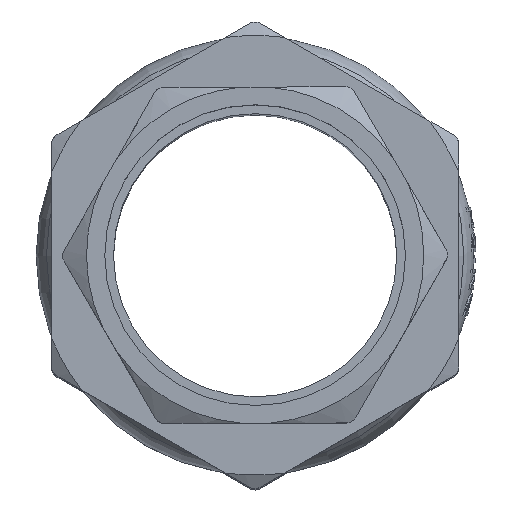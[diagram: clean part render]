
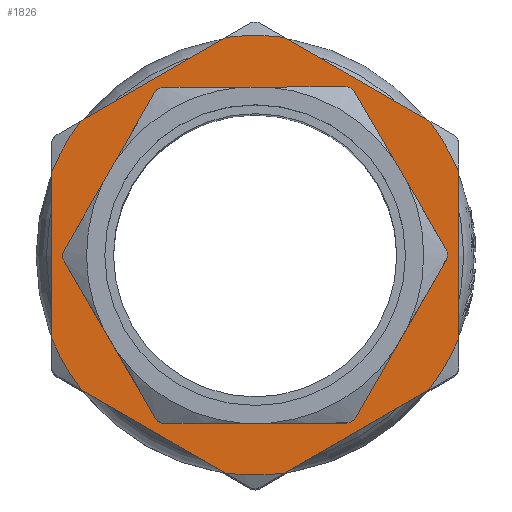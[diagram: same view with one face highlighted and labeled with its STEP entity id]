
A CAD part, top view. The second image highlights one B-rep face of the part: STEP entity #1826.
In plain terms, the highlighted planar face has unit normal (0, 0, 1).
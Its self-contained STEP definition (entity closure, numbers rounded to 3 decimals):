
#1826=ADVANCED_FACE('',(#4620,#4622),#4624,.T.);
#4620=FACE_BOUND('',#4621,.T.);
#4621=EDGE_LOOP('',(#5816,#5817,#5818,#5819,#5820,#5821,#5822,#5823,#5824,#5825,
#5826,#5827));
#4622=FACE_BOUND('',#4623,.T.);
#4623=EDGE_LOOP('',(#5828,#5829,#5830,#5831,#5832,#5833,#5834,#5835,#5836,#5837,
#5838,#5839));
#4624=PLANE('',#4625);
#4625=AXIS2_PLACEMENT_3D('',#4626,#4627,#4628);
#4626=CARTESIAN_POINT('',(0.,47.463,115.5));
#4627=DIRECTION('',(0.,0.,1.));
#4628=DIRECTION('',(1.,0.,0.));
#5816=ORIENTED_EDGE('',*,*,#6451,.T.);
#5817=ORIENTED_EDGE('',*,*,#6434,.T.);
#5818=ORIENTED_EDGE('',*,*,#6440,.T.);
#5819=ORIENTED_EDGE('',*,*,#6422,.T.);
#5820=ORIENTED_EDGE('',*,*,#6429,.T.);
#5821=ORIENTED_EDGE('',*,*,#6549,.T.);
#5822=ORIENTED_EDGE('',*,*,#6409,.T.);
#5823=ORIENTED_EDGE('',*,*,#6416,.T.);
#5824=ORIENTED_EDGE('',*,*,#6465,.T.);
#5825=ORIENTED_EDGE('',*,*,#6456,.T.);
#5826=ORIENTED_EDGE('',*,*,#6462,.T.);
#5827=ORIENTED_EDGE('',*,*,#6445,.T.);
#5828=ORIENTED_EDGE('',*,*,#6484,.T.);
#5829=ORIENTED_EDGE('',*,*,#6479,.F.);
#5830=ORIENTED_EDGE('',*,*,#6550,.T.);
#5831=ORIENTED_EDGE('',*,*,#6468,.F.);
#5832=ORIENTED_EDGE('',*,*,#6474,.T.);
#5833=ORIENTED_EDGE('',*,*,#6490,.F.);
#5834=ORIENTED_EDGE('',*,*,#6495,.T.);
#5835=ORIENTED_EDGE('',*,*,#6499,.F.);
#5836=ORIENTED_EDGE('',*,*,#6504,.T.);
#5837=ORIENTED_EDGE('',*,*,#6508,.F.);
#5838=ORIENTED_EDGE('',*,*,#6513,.T.);
#5839=ORIENTED_EDGE('',*,*,#6516,.F.);
#6409=EDGE_CURVE('',#7264,#7262,#7265,.T.);
#6416=EDGE_CURVE('',#7262,#7275,#7277,.T.);
#6422=EDGE_CURVE('',#7288,#7286,#7289,.T.);
#6429=EDGE_CURVE('',#7286,#7299,#7301,.T.);
#6434=EDGE_CURVE('',#7309,#7307,#7310,.T.);
#6440=EDGE_CURVE('',#7307,#7288,#7320,.T.);
#6445=EDGE_CURVE('',#7328,#7326,#7329,.T.);
#6451=EDGE_CURVE('',#7326,#7309,#7339,.T.);
#6456=EDGE_CURVE('',#7347,#7345,#7348,.T.);
#6462=EDGE_CURVE('',#7345,#7328,#7358,.T.);
#6465=EDGE_CURVE('',#7275,#7347,#7361,.T.);
#6468=EDGE_CURVE('',#7365,#7367,#7368,.F.);
#6474=EDGE_CURVE('',#7365,#7376,#7378,.T.);
#6479=EDGE_CURVE('',#7385,#7387,#7388,.F.);
#6484=EDGE_CURVE('',#7395,#7387,#7396,.T.);
#6490=EDGE_CURVE('',#7404,#7376,#7406,.F.);
#6495=EDGE_CURVE('',#7404,#7413,#7415,.T.);
#6499=EDGE_CURVE('',#7419,#7413,#7421,.F.);
#6504=EDGE_CURVE('',#7419,#7428,#7430,.T.);
#6508=EDGE_CURVE('',#7434,#7428,#7436,.F.);
#6513=EDGE_CURVE('',#7434,#7443,#7445,.T.);
#6516=EDGE_CURVE('',#7395,#7443,#7448,.F.);
#6549=EDGE_CURVE('',#7299,#7264,#7488,.T.);
#6550=EDGE_CURVE('',#7385,#7367,#7489,.T.);
#7262=VERTEX_POINT('',#16076);
#7264=VERTEX_POINT('',#16089);
#7265=CIRCLE('',#16090,62.089);
#7275=VERTEX_POINT('',#16135);
#7277=LINE('',#16148,#16149);
#7286=VERTEX_POINT('',#16303);
#7288=VERTEX_POINT('',#16311);
#7289=LINE('',#16312,#16313);
#7299=VERTEX_POINT('',#16346);
#7301=CIRCLE('',#16354,62.089);
#7307=VERTEX_POINT('',#16505);
#7309=VERTEX_POINT('',#16518);
#7310=LINE('',#16519,#16520);
#7320=CIRCLE('',#16568,62.089);
#7326=VERTEX_POINT('',#16719);
#7328=VERTEX_POINT('',#16727);
#7329=LINE('',#16728,#16729);
#7339=CIRCLE('',#16762,62.089);
#7345=VERTEX_POINT('',#16913);
#7347=VERTEX_POINT('',#16921);
#7348=LINE('',#16922,#16923);
#7358=CIRCLE('',#16956,62.089);
#7361=CIRCLE('',#17102,62.089);
#7365=VERTEX_POINT('',#17181);
#7367=VERTEX_POINT('',#17185);
#7368=CIRCLE('',#17186,3.);
#7376=VERTEX_POINT('',#17258);
#7378=LINE('',#17262,#17263);
#7385=VERTEX_POINT('',#17376);
#7387=VERTEX_POINT('',#17380);
#7388=CIRCLE('',#17381,3.);
#7395=VERTEX_POINT('',#17453);
#7396=LINE('',#17454,#17455);
#7404=VERTEX_POINT('',#17567);
#7406=CIRCLE('',#17571,3.);
#7413=VERTEX_POINT('',#17640);
#7415=LINE('',#17644,#17645);
#7419=VERTEX_POINT('',#17725);
#7421=CIRCLE('',#17729,3.);
#7428=VERTEX_POINT('',#17798);
#7430=LINE('',#17802,#17803);
#7434=VERTEX_POINT('',#17883);
#7436=CIRCLE('',#17887,3.);
#7443=VERTEX_POINT('',#17956);
#7445=LINE('',#17960,#17961);
#7448=CIRCLE('',#18040,3.);
#7488=LINE('',#18179,#18180);
#7489=LINE('',#18182,#18183);
#16076=CARTESIAN_POINT('',(57.463,-23.517,115.5));
#16089=CARTESIAN_POINT('',(49.098,-38.006,115.5));
#16090=AXIS2_PLACEMENT_3D('',#16091,#16092,#16093);
#16091=CARTESIAN_POINT('',(0.,0.,115.5));
#16092=DIRECTION('',(0.,0.,1.));
#16093=DIRECTION('',(0.791,-0.612,0.));
#16135=CARTESIAN_POINT('',(57.463,23.517,115.5));
#16148=CARTESIAN_POINT('',(57.463,-23.517,115.5));
#16149=VECTOR('',#16150,1.);
#16150=DIRECTION('',(0.,1.,0.));
#16303=CARTESIAN_POINT('',(-8.365,-61.523,115.5));
#16311=CARTESIAN_POINT('',(-49.098,-38.006,115.5));
#16312=CARTESIAN_POINT('',(-49.098,-38.006,115.5));
#16313=VECTOR('',#16314,1.);
#16314=DIRECTION('',(0.866,-0.5,0.));
#16346=CARTESIAN_POINT('',(8.365,-61.523,115.5));
#16354=AXIS2_PLACEMENT_3D('',#16355,#16356,#16357);
#16355=CARTESIAN_POINT('',(0.,0.,115.5));
#16356=DIRECTION('',(0.,0.,1.));
#16357=DIRECTION('',(-0.135,-0.991,0.));
#16505=CARTESIAN_POINT('',(-57.463,-23.517,115.5));
#16518=CARTESIAN_POINT('',(-57.463,23.517,115.5));
#16519=CARTESIAN_POINT('',(-57.463,23.517,115.5));
#16520=VECTOR('',#16521,1.);
#16521=DIRECTION('',(0.,-1.,0.));
#16568=AXIS2_PLACEMENT_3D('',#16569,#16570,#16571);
#16569=CARTESIAN_POINT('',(0.,0.,115.5));
#16570=DIRECTION('',(0.,0.,1.));
#16571=DIRECTION('',(-0.925,-0.379,0.));
#16719=CARTESIAN_POINT('',(-49.098,38.006,115.5));
#16727=CARTESIAN_POINT('',(-8.365,61.523,115.5));
#16728=CARTESIAN_POINT('',(-8.365,61.523,115.5));
#16729=VECTOR('',#16730,1.);
#16730=DIRECTION('',(-0.866,-0.5,0.));
#16762=AXIS2_PLACEMENT_3D('',#16763,#16764,#16765);
#16763=CARTESIAN_POINT('',(0.,0.,115.5));
#16764=DIRECTION('',(0.,0.,1.));
#16765=DIRECTION('',(-0.791,0.612,0.));
#16913=CARTESIAN_POINT('',(8.365,61.523,115.5));
#16921=CARTESIAN_POINT('',(49.098,38.006,115.5));
#16922=CARTESIAN_POINT('',(49.098,38.006,115.5));
#16923=VECTOR('',#16924,1.);
#16924=DIRECTION('',(-0.866,0.5,0.));
#16956=AXIS2_PLACEMENT_3D('',#16957,#16958,#16959);
#16957=CARTESIAN_POINT('',(0.,0.,115.5));
#16958=DIRECTION('',(0.,0.,1.));
#16959=DIRECTION('',(0.135,0.991,0.));
#17102=AXIS2_PLACEMENT_3D('',#17103,#17104,#17105);
#17103=CARTESIAN_POINT('',(0.,0.,115.5));
#17104=DIRECTION('',(0.,0.,1.));
#17105=DIRECTION('',(0.925,0.379,0.));
#17181=CARTESIAN_POINT('',(25.806,-47.39,115.5));
#17185=CARTESIAN_POINT('',(28.4,-45.882,115.5));
#17186=AXIS2_PLACEMENT_3D('',#17187,#17188,#17189);
#17187=CARTESIAN_POINT('',(25.797,-44.39,115.5));
#17188=DIRECTION('',(0.,0.,-1.));
#17189=DIRECTION('',(0.867,-0.498,0.));
#17258=CARTESIAN_POINT('',(-25.535,-47.536,115.5));
#17262=CARTESIAN_POINT('',(25.806,-47.39,115.5));
#17263=VECTOR('',#17264,1.);
#17264=DIRECTION('',(-1.,-0.003,0.));
#17376=CARTESIAN_POINT('',(53.944,-1.346,115.5));
#17380=CARTESIAN_POINT('',(53.935,1.654,115.5));
#17381=AXIS2_PLACEMENT_3D('',#17382,#17383,#17384);
#17382=CARTESIAN_POINT('',(51.341,0.146,115.5));
#17383=DIRECTION('',(0.,0.,-1.));
#17384=DIRECTION('',(0.865,0.502,0.));
#17453=CARTESIAN_POINT('',(28.138,46.043,115.5));
#17454=CARTESIAN_POINT('',(28.138,46.043,115.5));
#17455=VECTOR('',#17456,1.);
#17456=DIRECTION('',(0.502,-0.865,0.));
#17567=CARTESIAN_POINT('',(-28.138,-46.043,115.5));
#17571=AXIS2_PLACEMENT_3D('',#17572,#17573,#17574);
#17572=CARTESIAN_POINT('',(-25.544,-44.536,115.5));
#17573=DIRECTION('',(0.,0.,-1.));
#17574=DIRECTION('',(0.003,-1.,0.));
#17640=CARTESIAN_POINT('',(-53.935,-1.654,115.5));
#17644=CARTESIAN_POINT('',(-28.138,-46.043,115.5));
#17645=VECTOR('',#17646,1.);
#17646=DIRECTION('',(-0.502,0.865,0.));
#17725=CARTESIAN_POINT('',(-53.944,1.346,115.5));
#17729=AXIS2_PLACEMENT_3D('',#17730,#17731,#17732);
#17730=CARTESIAN_POINT('',(-51.341,-0.146,115.5));
#17731=DIRECTION('',(0.,0.,-1.));
#17732=DIRECTION('',(-0.865,-0.502,0.));
#17798=CARTESIAN_POINT('',(-28.4,45.882,115.5));
#17802=CARTESIAN_POINT('',(-53.944,1.346,115.5));
#17803=VECTOR('',#17804,1.);
#17804=DIRECTION('',(0.498,0.867,0.));
#17883=CARTESIAN_POINT('',(-25.806,47.39,115.5));
#17887=AXIS2_PLACEMENT_3D('',#17888,#17889,#17890);
#17888=CARTESIAN_POINT('',(-25.797,44.39,115.5));
#17889=DIRECTION('',(0.,0.,-1.));
#17890=DIRECTION('',(-0.867,0.498,0.));
#17956=CARTESIAN_POINT('',(25.535,47.536,115.5));
#17960=CARTESIAN_POINT('',(-25.806,47.39,115.5));
#17961=VECTOR('',#17962,1.);
#17962=DIRECTION('',(1.,0.003,0.));
#18040=AXIS2_PLACEMENT_3D('',#18041,#18042,#18043);
#18041=CARTESIAN_POINT('',(25.544,44.536,115.5));
#18042=DIRECTION('',(0.,0.,-1.));
#18043=DIRECTION('',(-0.003,1.,0.));
#18179=CARTESIAN_POINT('',(8.365,-61.523,115.5));
#18180=VECTOR('',#18181,1.);
#18181=DIRECTION('',(0.866,0.5,0.));
#18182=CARTESIAN_POINT('',(53.944,-1.346,115.5));
#18183=VECTOR('',#18184,1.);
#18184=DIRECTION('',(-0.498,-0.867,0.));
